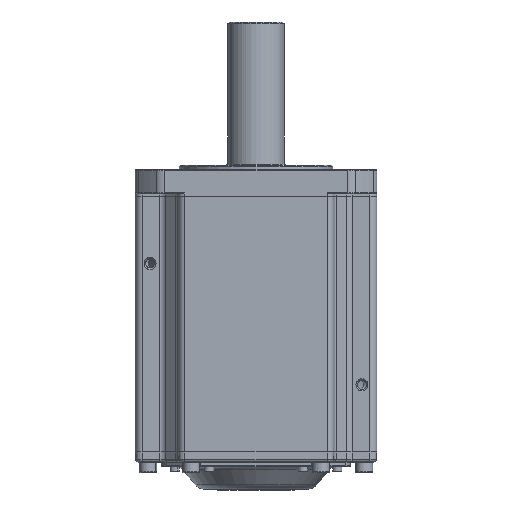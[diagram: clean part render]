
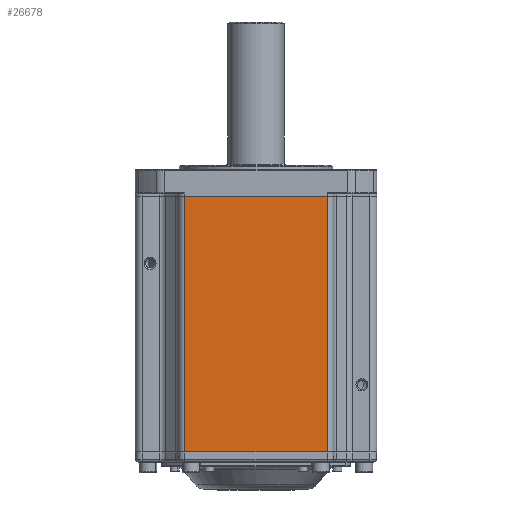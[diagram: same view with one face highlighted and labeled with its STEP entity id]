
A CAD part, front view. The second image highlights one B-rep face of the part: STEP entity #26678.
In plain terms, the highlighted planar face has unit normal (0, -1, 0).
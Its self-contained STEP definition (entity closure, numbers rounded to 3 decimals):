
#424 = VECTOR ( 'NONE', #56830, 1000. ) ;
#4179 = VERTEX_POINT ( 'NONE', #19602 ) ;
#6430 = LINE ( 'NONE', #45219, #62099 ) ;
#6812 = CARTESIAN_POINT ( 'NONE',  ( 58.026, -89.007, -896.673 ) ) ;
#9696 = DIRECTION ( 'NONE',  ( 1., 0., 0. ) ) ;
#11101 = ORIENTED_EDGE ( 'NONE', *, *, #39282, .T. ) ;
#11576 = DIRECTION ( 'NONE',  ( 0., 0., -1. ) ) ;
#13521 = CARTESIAN_POINT ( 'NONE',  ( 53.026, -89.007, 103.327 ) ) ;
#15374 = EDGE_CURVE ( 'NONE', #33012, #57800, #16017, .T. ) ;
#16017 = LINE ( 'NONE', #55353, #20664 ) ;
#17109 = CARTESIAN_POINT ( 'NONE',  ( -52.974, -89.007, -896.673 ) ) ;
#19602 = CARTESIAN_POINT ( 'NONE',  ( -52.974, -89.007, -87.273 ) ) ;
#20664 = VECTOR ( 'NONE', #25838, 1000. ) ;
#24321 = CARTESIAN_POINT ( 'NONE',  ( -52.974, -89.007, 103.327 ) ) ;
#25838 = DIRECTION ( 'NONE',  ( -1., 0., 0. ) ) ;
#26221 = ORIENTED_EDGE ( 'NONE', *, *, #15374, .T. ) ;
#26678 = ADVANCED_FACE ( 'NONE', ( #40277 ), #35167, .F. ) ;
#31043 = DIRECTION ( 'NONE',  ( 0., 1., 0. ) ) ;
#31637 = VERTEX_POINT ( 'NONE', #52694 ) ;
#32669 = ORIENTED_EDGE ( 'NONE', *, *, #64177, .T. ) ;
#33012 = VERTEX_POINT ( 'NONE', #13521 ) ;
#34596 = ORIENTED_EDGE ( 'NONE', *, *, #35316, .T. ) ;
#35167 = PLANE ( 'NONE',  #62237 ) ;
#35316 = EDGE_CURVE ( 'NONE', #4179, #31637, #53411, .T. ) ;
#37532 = LINE ( 'NONE', #17109, #424 ) ;
#39282 = EDGE_CURVE ( 'NONE', #57800, #4179, #37532, .T. ) ;
#39325 = CARTESIAN_POINT ( 'NONE',  ( -154.318, -89.007, -87.273 ) ) ;
#40277 = FACE_OUTER_BOUND ( 'NONE', #43877, .T. ) ;
#43877 = EDGE_LOOP ( 'NONE', ( #11101, #34596, #32669, #26221 ) ) ;
#45219 = CARTESIAN_POINT ( 'NONE',  ( 53.026, -89.007, -896.673 ) ) ;
#51157 = VECTOR ( 'NONE', #9696, 1000. ) ;
#52694 = CARTESIAN_POINT ( 'NONE',  ( 53.026, -89.007, -87.273 ) ) ;
#53411 = LINE ( 'NONE', #39325, #51157 ) ;
#54461 = DIRECTION ( 'NONE',  ( 0., 0., 1. ) ) ;
#55353 = CARTESIAN_POINT ( 'NONE',  ( 58.026, -89.007, 103.327 ) ) ;
#56830 = DIRECTION ( 'NONE',  ( 0., 0., -1. ) ) ;
#57800 = VERTEX_POINT ( 'NONE', #24321 ) ;
#62099 = VECTOR ( 'NONE', #54461, 1000. ) ;
#62237 = AXIS2_PLACEMENT_3D ( 'NONE', #6812, #31043, #11576 ) ;
#64177 = EDGE_CURVE ( 'NONE', #31637, #33012, #6430, .T. ) ;
